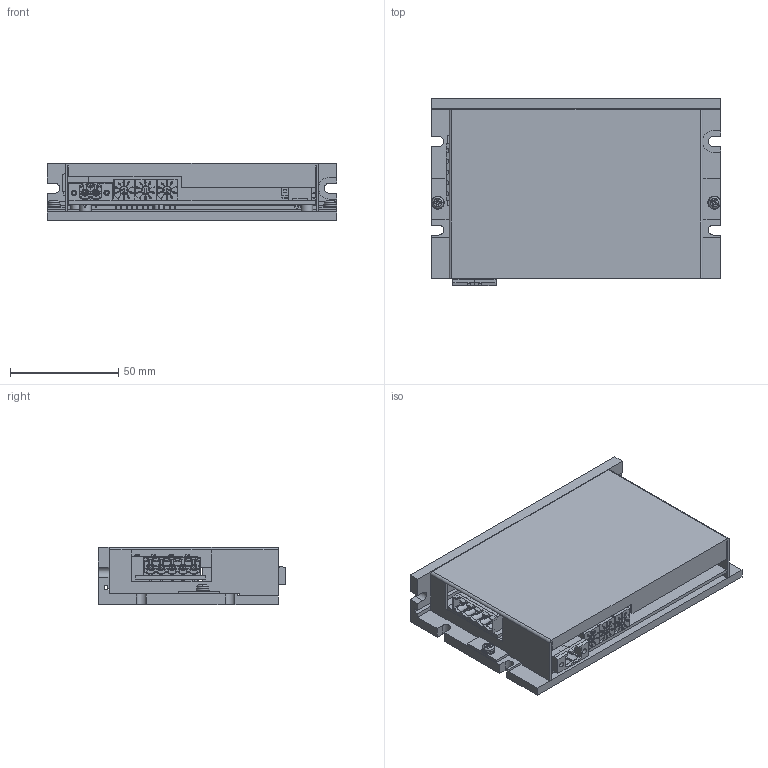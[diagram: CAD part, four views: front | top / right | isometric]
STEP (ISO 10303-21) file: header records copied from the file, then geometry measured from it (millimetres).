
FILE_DESCRIPTION (( 'STEP AP203' ), '1' );
FILE_NAME ('P52-DR-000-01-R00.STEP', '2016-12-21T03:39:21', ( '' ), ( '' ), 'SwSTEP 2.0', 'SolidWorks 2013', '' );
FILE_SCHEMA (( 'CONFIG_CONTROL_DESIGN' ));
Length unit declared in the file: millimetre
Products named in the file (17): S-2031A; M11-DR-000-01-R02; PTR_STL950_5G_50_H; M52-DR-000-01-R00; Ezi-MOTIONGATE PCB; PCB; 442480029; PTR_STL950_2F_50_H_HC-1; YD-04GA; PTR_STL950_2F_50_H_HC-2; pan cross head_ks_KS 1023 PC- M3 x 6-N; PTR_STL950_2F_50_H_HC; spring lock washer_ks_KS 1324 - M3; _S-2031A_body; plain washer small grade a_iso_Washer ISO 7092 - 3; _Without knob-Dial_1; P52-DR-000-01-R00
Assembly tree (21 placements, depth 3):
  P52-DR-000-01-R00
    M11-DR-000-01-R02
    M52-DR-000-01-R00
    PCB
    PTR_STL950_2F_50_H_HC
      PTR_STL950_2F_50_H_HC-1
      PTR_STL950_2F_50_H_HC-2
    S-2031A  x3
      _S-2031A_body
      _Without knob-Dial_1
    PTR_STL950_5G_50_H
    Ezi-MOTIONGATE PCB
    442480029
    YD-04GA
    pan cross head_ks_KS 1023 PC- M3 x 6-N  x2
    spring lock washer_ks_KS 1324 - M3  x2
    plain washer small grade a_iso_Washer ISO 7092 - 3  x2
Bounding box: 134 x 86.8 x 26.5 mm (x, y, z)
Volume: 106947 mm3; surface area: 89837.6 mm2
Topology: 21 solids, 21 shells, 3030 faces, 8236 edges, 5370 vertices
Faces by surface type: plane 1779, cylinder 981, bspline 189, cone 69, torus 8, sphere 4
Entity records: 105357 total; most frequent: CARTESIAN_POINT 45250, ORIENTED_EDGE 12708, DIRECTION 11209, EDGE_CURVE 6354, VECTOR 4487, LINE 4487, VERTEX_POINT 4131, AXIS2_PLACEMENT_3D 3361
